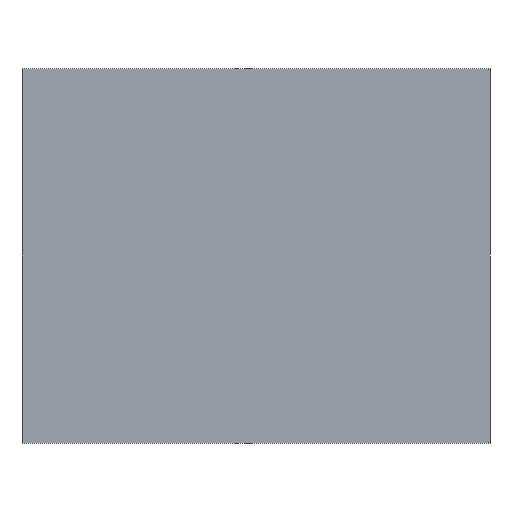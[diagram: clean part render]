
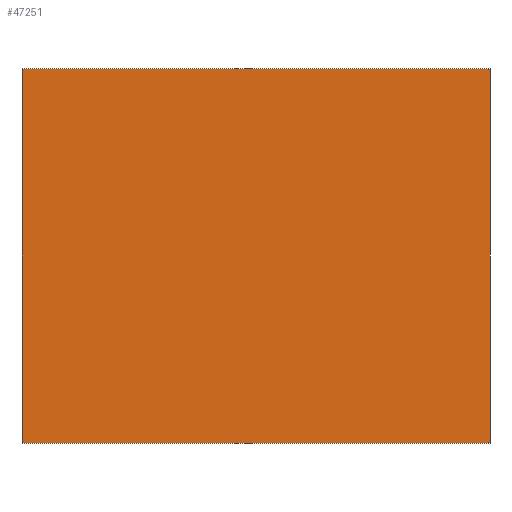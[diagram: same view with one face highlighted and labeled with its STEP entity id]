
A CAD part, top view. The second image highlights one B-rep face of the part: STEP entity #47251.
In plain terms, the highlighted planar face has unit normal (0, 0, 1).
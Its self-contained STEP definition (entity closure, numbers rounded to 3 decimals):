
#47124=DIRECTION('',(0.,-1.,0.));
#47125=VECTOR('',#47124,890.457);
#47126=CARTESIAN_POINT('',(-524.045,445.229,1000.));
#47127=LINE('',#47126,#47125);
#47131=DIRECTION('',(-1.,0.,0.));
#47132=VECTOR('',#47131,1113.09);
#47133=CARTESIAN_POINT('',(589.045,445.229,1000.));
#47134=LINE('',#47133,#47132);
#47138=DIRECTION('',(0.,1.,0.));
#47139=VECTOR('',#47138,890.457);
#47140=CARTESIAN_POINT('',(589.045,-445.229,1000.));
#47141=LINE('',#47140,#47139);
#47145=DIRECTION('',(1.,0.,0.));
#47146=VECTOR('',#47145,1113.09);
#47147=CARTESIAN_POINT('',(-524.045,-445.229,1000.));
#47148=LINE('',#47147,#47146);
#47160=CARTESIAN_POINT('',(-524.045,445.229,1000.));
#47161=CARTESIAN_POINT('',(-524.045,-445.229,1000.));
#47162=VERTEX_POINT('',#47160);
#47163=VERTEX_POINT('',#47161);
#47164=CARTESIAN_POINT('',(589.045,-445.229,1000.));
#47165=VERTEX_POINT('',#47164);
#47166=CARTESIAN_POINT('',(589.045,445.229,1000.));
#47167=VERTEX_POINT('',#47166);
#47240=CARTESIAN_POINT('',(0.,0.,1000.));
#47241=DIRECTION('',(0.,0.,1.));
#47242=DIRECTION('',(1.,0.,0.));
#47243=AXIS2_PLACEMENT_3D('',#47240,#47241,#47242);
#47244=PLANE('',#47243);
#47245=ORIENTED_EDGE('',*,*,#47192,.F.);
#47246=ORIENTED_EDGE('',*,*,#47207,.F.);
#47247=ORIENTED_EDGE('',*,*,#47221,.F.);
#47248=ORIENTED_EDGE('',*,*,#47234,.F.);
#47249=EDGE_LOOP('',(#47245,#47246,#47247,#47248));
#47250=FACE_OUTER_BOUND('',#47249,.F.);
#47192=EDGE_CURVE('',#47162,#47163,#47127,.T.);
#47207=EDGE_CURVE('',#47167,#47162,#47134,.T.);
#47221=EDGE_CURVE('',#47165,#47167,#47141,.T.);
#47234=EDGE_CURVE('',#47163,#47165,#47148,.T.);
#47251=ADVANCED_FACE('',(#47250),#47244,.T.);
